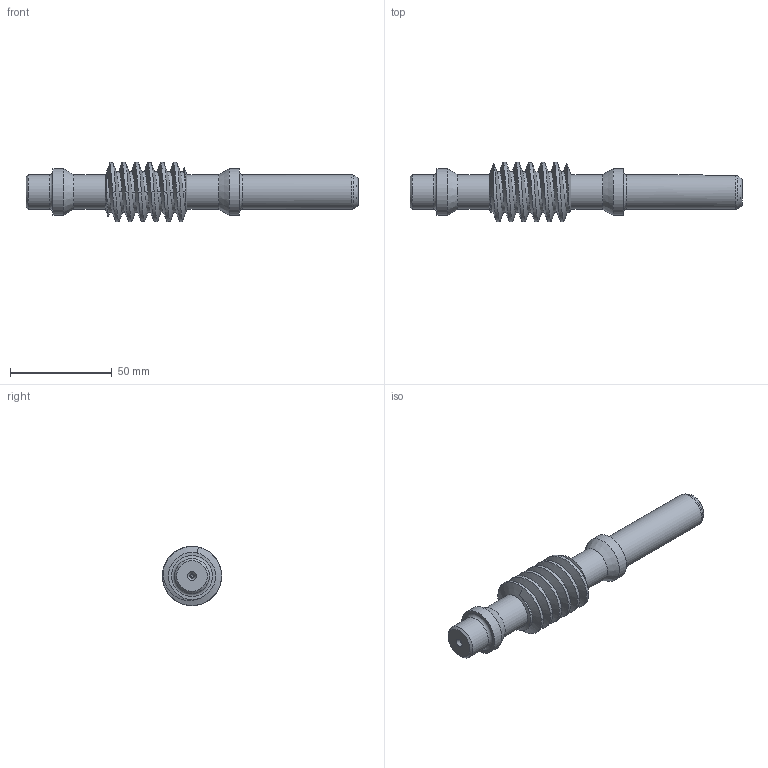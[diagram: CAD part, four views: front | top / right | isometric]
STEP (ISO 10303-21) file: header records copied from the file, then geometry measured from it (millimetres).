
FILE_DESCRIPTION(/* description */ (''),/* implementation_level */ '2;1');
FILE_NAME(/* name */ '',/* time_stamp */ '2026-01-30T14:39:22+09:00',/* author */ ('jhkim'),/* organization */ (''),/* preprocessor_version */ 'ST-DEVELOPER v20.1',/* originating_system */ 'Autodesk Inventor 2026',/* authorisation */ '');
FILE_SCHEMA (('AUTOMOTIVE_DESIGN { 1 0 10303 214 3 1 1 }'));
Length unit declared in the file: millimetre
Products named in the file (1): 웜 샤프트
Bounding box: 163 x 29 x 29 mm (x, y, z)
Volume: 49139.4 mm3; surface area: 14051.9 mm2
Topology: 1 solids, 1 shells, 47 faces, 118 edges, 75 vertices
Faces by surface type: cylinder 24, cone 10, plane 7, torus 4, bspline 2
Full cylindrical faces by diameter (mm): 2 x2, 17 x4, 20 x6, 23 x2, 29 x5
Entity records: 2954 total; most frequent: CARTESIAN_POINT 1847, ORIENTED_EDGE 232, DIRECTION 205, EDGE_CURVE 116, AXIS2_PLACEMENT_3D 83, VERTEX_POINT 75, EDGE_LOOP 51, FACE_OUTER_BOUND 47
